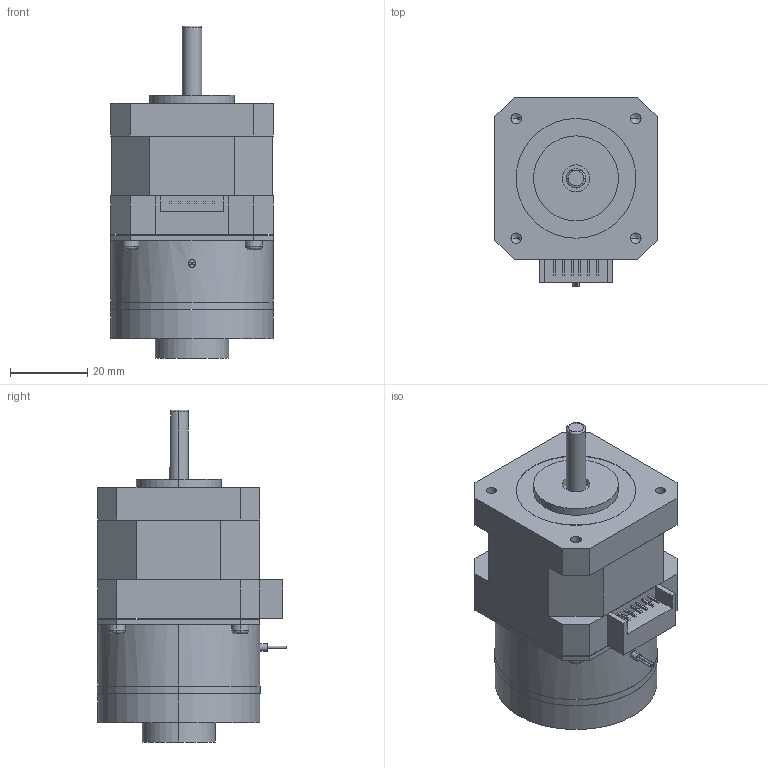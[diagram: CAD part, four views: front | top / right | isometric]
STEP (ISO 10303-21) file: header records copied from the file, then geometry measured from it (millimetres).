
FILE_DESCRIPTION (( 'STEP AP203' ), '1' );
FILE_NAME ('UB42D24-D08-434.STEP', '2019-11-16T02:04:57', ( 'China' ), ( 'Home' ), 'SwSTEP 2.0', 'SolidWorks 2016', '' );
FILE_SCHEMA (( 'CONFIG_CONTROL_DESIGN' ));
Length unit declared in the file: millimetre
Products named in the file (1): UB42D24-D08-434
Bounding box: 42.2 x 49.1 x 86 mm (x, y, z)
Volume: 96256.9 mm3; surface area: 20458.1 mm2
Topology: 2 solids, 7 shells, 299 faces, 764 edges, 497 vertices
Faces by surface type: plane 222, cylinder 58, bspline 11, cone 8
Entity records: 9270 total; most frequent: CARTESIAN_POINT 2081, ORIENTED_EDGE 1512, DIRECTION 1383, EDGE_CURVE 756, VECTOR 541, LINE 541, VERTEX_POINT 497, AXIS2_PLACEMENT_3D 421
